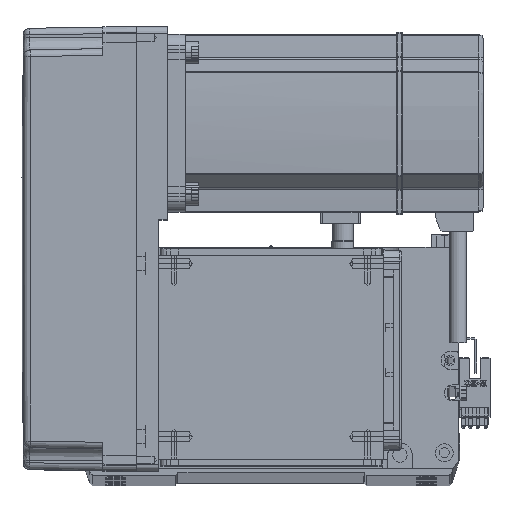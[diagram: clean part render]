
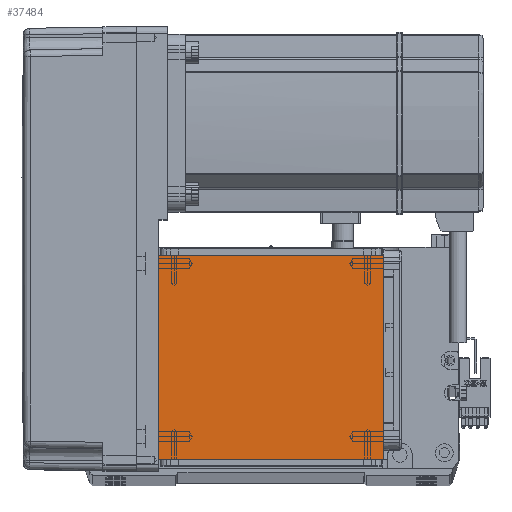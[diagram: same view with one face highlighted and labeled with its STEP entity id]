
A CAD part, top view. The second image highlights one B-rep face of the part: STEP entity #37484.
In plain terms, the highlighted planar face has unit normal (0, 0, 1).
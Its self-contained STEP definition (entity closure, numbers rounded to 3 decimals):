
#884 = VECTOR ( 'NONE', #14703, 1000. ) ;
#5665 = EDGE_CURVE ( 'NONE', #18407, #37421, #18740, .T. ) ;
#7903 = DIRECTION ( 'NONE',  ( 1., 0., 0. ) ) ;
#9709 = EDGE_LOOP ( 'NONE', ( #54849, #38809, #63809, #15244 ) ) ;
#14703 = DIRECTION ( 'NONE',  ( 0., 1., 0. ) ) ;
#15244 = ORIENTED_EDGE ( 'NONE', *, *, #18080, .T. ) ;
#15402 = FACE_OUTER_BOUND ( 'NONE', #9709, .T. ) ;
#15798 = CARTESIAN_POINT ( 'NONE',  ( 50.5, 111.5, 115. ) ) ;
#16592 = VERTEX_POINT ( 'NONE', #64646 ) ;
#18080 = EDGE_CURVE ( 'NONE', #18407, #51285, #64484, .T. ) ;
#18407 = VERTEX_POINT ( 'NONE', #53600 ) ;
#18740 = LINE ( 'NONE', #25386, #27401 ) ;
#24186 = CARTESIAN_POINT ( 'NONE',  ( -50.5, 20., 115. ) ) ;
#25386 = CARTESIAN_POINT ( 'NONE',  ( -70.004, 20., 115. ) ) ;
#27401 = VECTOR ( 'NONE', #34604, 1000. ) ;
#29241 = DIRECTION ( 'NONE',  ( 1., 0., 0. ) ) ;
#29746 = CARTESIAN_POINT ( 'NONE',  ( -50.5, 122., 115. ) ) ;
#30411 = DIRECTION ( 'NONE',  ( 0., -1., 0. ) ) ;
#34604 = DIRECTION ( 'NONE',  ( -1., 0., 0. ) ) ;
#37421 = VERTEX_POINT ( 'NONE', #24186 ) ;
#37484 = ADVANCED_FACE ( 'NONE', ( #15402 ), #64441, .T. ) ;
#38809 = ORIENTED_EDGE ( 'NONE', *, *, #54910, .T. ) ;
#39262 = CARTESIAN_POINT ( 'NONE',  ( 50.5, 122., 115. ) ) ;
#43053 = LINE ( 'NONE', #29746, #64256 ) ;
#44244 = EDGE_CURVE ( 'NONE', #16592, #51285, #63851, .T. ) ;
#46128 = AXIS2_PLACEMENT_3D ( 'NONE', #55282, #54860, #29241 ) ;
#47495 = CARTESIAN_POINT ( 'NONE',  ( -70.004, 111.5, 115. ) ) ;
#50520 = VECTOR ( 'NONE', #7903, 1000. ) ;
#51285 = VERTEX_POINT ( 'NONE', #15798 ) ;
#53600 = CARTESIAN_POINT ( 'NONE',  ( 50.5, 20., 115. ) ) ;
#54849 = ORIENTED_EDGE ( 'NONE', *, *, #44244, .F. ) ;
#54860 = DIRECTION ( 'NONE',  ( 0., 0., 1. ) ) ;
#54910 = EDGE_CURVE ( 'NONE', #16592, #37421, #43053, .T. ) ;
#55282 = CARTESIAN_POINT ( 'NONE',  ( 0., 0., 115. ) ) ;
#63809 = ORIENTED_EDGE ( 'NONE', *, *, #5665, .F. ) ;
#63851 = LINE ( 'NONE', #47495, #50520 ) ;
#64256 = VECTOR ( 'NONE', #30411, 1000. ) ;
#64441 = PLANE ( 'NONE',  #46128 ) ;
#64484 = LINE ( 'NONE', #39262, #884 ) ;
#64646 = CARTESIAN_POINT ( 'NONE',  ( -50.5, 111.5, 115. ) ) ;
